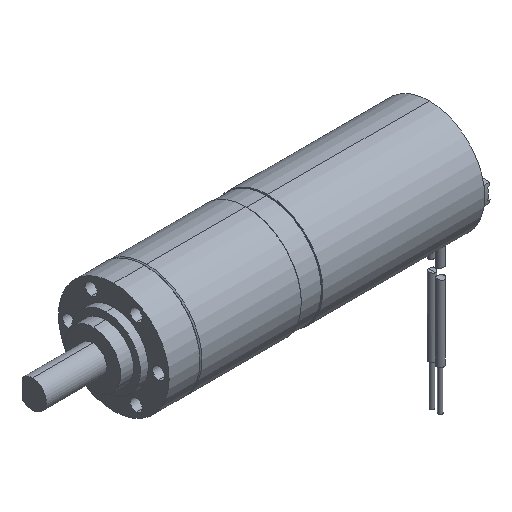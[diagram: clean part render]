
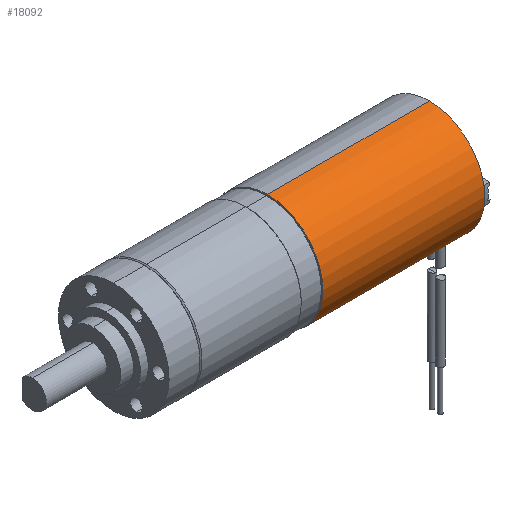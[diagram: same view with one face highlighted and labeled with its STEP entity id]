
A CAD part, isometric view. The second image highlights one B-rep face of the part: STEP entity #18092.
In plain terms, the highlighted cylindrical face has radius 8 mm (diameter 16 mm), a partial arc.
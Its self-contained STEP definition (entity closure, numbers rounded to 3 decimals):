
#388 = LINE ( 'NONE', #31379, #19218 ) ;
#1058 = ORIENTED_EDGE ( 'NONE', *, *, #13333, .T. ) ;
#1633 = VERTEX_POINT ( 'NONE', #35947 ) ;
#3500 = CIRCLE ( 'NONE', #46473, 8. ) ;
#3535 = DIRECTION ( 'NONE',  ( -1., 0., 0. ) ) ;
#6774 = EDGE_CURVE ( 'NONE', #12260, #13219, #14882, .T. ) ;
#6843 = DIRECTION ( 'NONE',  ( -1., 0., 0. ) ) ;
#8715 = DIRECTION ( 'NONE',  ( -1., 0., 0. ) ) ;
#9025 = CARTESIAN_POINT ( 'NONE',  ( 26.5, 0., 8. ) ) ;
#12260 = VERTEX_POINT ( 'NONE', #28146 ) ;
#12863 = CARTESIAN_POINT ( 'NONE',  ( 3.1, 0., 8. ) ) ;
#13219 = VERTEX_POINT ( 'NONE', #9025 ) ;
#13333 = EDGE_CURVE ( 'NONE', #33741, #1633, #3500, .T. ) ;
#14319 = CARTESIAN_POINT ( 'NONE',  ( 3.1, 0., 0. ) ) ;
#14823 = ORIENTED_EDGE ( 'NONE', *, *, #27786, .T. ) ;
#14882 = CIRCLE ( 'NONE', #36496, 8. ) ;
#15996 = LINE ( 'NONE', #33653, #26095 ) ;
#18092 = ADVANCED_FACE ( 'NONE', ( #31807 ), #37128, .T. ) ;
#18114 = DIRECTION ( 'NONE',  ( 0., 0., 1. ) ) ;
#19218 = VECTOR ( 'NONE', #8715, 1000. ) ;
#20901 = ORIENTED_EDGE ( 'NONE', *, *, #6774, .T. ) ;
#21152 = AXIS2_PLACEMENT_3D ( 'NONE', #45121, #3535, #41502 ) ;
#25689 = ORIENTED_EDGE ( 'NONE', *, *, #26688, .F. ) ;
#26095 = VECTOR ( 'NONE', #37591, 1000. ) ;
#26688 = EDGE_CURVE ( 'NONE', #12260, #1633, #388, .T. ) ;
#27786 = EDGE_CURVE ( 'NONE', #13219, #33741, #15996, .T. ) ;
#28146 = CARTESIAN_POINT ( 'NONE',  ( 26.5, 0., -8. ) ) ;
#29439 = CARTESIAN_POINT ( 'NONE',  ( 26.5, 0., 0. ) ) ;
#31379 = CARTESIAN_POINT ( 'NONE',  ( 14.8, 0., -8. ) ) ;
#31807 = FACE_OUTER_BOUND ( 'NONE', #42462, .T. ) ;
#33285 = DIRECTION ( 'NONE',  ( 0., 0., 1. ) ) ;
#33653 = CARTESIAN_POINT ( 'NONE',  ( 14.8, 0., 8. ) ) ;
#33741 = VERTEX_POINT ( 'NONE', #12863 ) ;
#35947 = CARTESIAN_POINT ( 'NONE',  ( 3.1, 0., -8. ) ) ;
#36496 = AXIS2_PLACEMENT_3D ( 'NONE', #29439, #6843, #33285 ) ;
#37128 = CYLINDRICAL_SURFACE ( 'NONE', #21152, 8. ) ;
#37591 = DIRECTION ( 'NONE',  ( -1., 0., 0. ) ) ;
#40788 = DIRECTION ( 'NONE',  ( 1., 0., 0. ) ) ;
#41502 = DIRECTION ( 'NONE',  ( 0., 0., 1. ) ) ;
#42462 = EDGE_LOOP ( 'NONE', ( #25689, #20901, #14823, #1058 ) ) ;
#45121 = CARTESIAN_POINT ( 'NONE',  ( 14.8, 0., 0. ) ) ;
#46473 = AXIS2_PLACEMENT_3D ( 'NONE', #14319, #40788, #18114 ) ;
